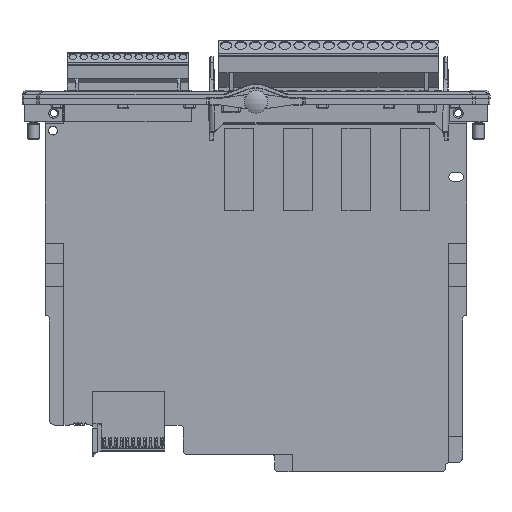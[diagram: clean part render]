
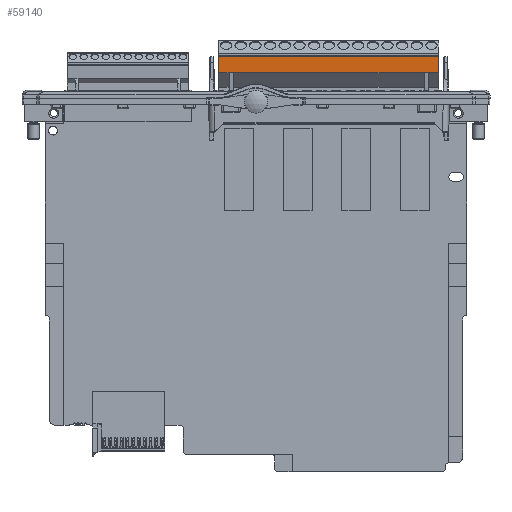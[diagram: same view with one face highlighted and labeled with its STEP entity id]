
A CAD part, top view. The second image highlights one B-rep face of the part: STEP entity #59140.
In plain terms, the highlighted planar face has unit normal (0, -0.06, 0.998).
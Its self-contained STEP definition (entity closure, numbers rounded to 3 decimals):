
#5845=FACE_OUTER_BOUND('',#9278,.T.);
#9278=EDGE_LOOP('',(#43061,#43062,#43063,#43064,#43065,#43066,#43067,#43068));
#14401=LINE('',#90604,#20002);
#14409=LINE('',#90654,#20010);
#14437=LINE('',#90728,#20038);
#14438=LINE('',#90731,#20039);
#14466=LINE('',#90809,#20067);
#14468=LINE('',#90814,#20069);
#14517=LINE('',#91022,#20118);
#14518=LINE('',#91024,#20119);
#20002=VECTOR('',#72903,10.);
#20010=VECTOR('',#72953,10.);
#20038=VECTOR('',#73029,10.);
#20039=VECTOR('',#73032,10.);
#20067=VECTOR('',#73110,10.);
#20069=VECTOR('',#73118,10.);
#20118=VECTOR('',#73375,10.);
#20119=VECTOR('',#73378,10.);
#24802=VERTEX_POINT('',#90601);
#24803=VERTEX_POINT('',#90603);
#24822=VERTEX_POINT('',#90650);
#24824=VERTEX_POINT('',#90653);
#24846=VERTEX_POINT('',#90726);
#24847=VERTEX_POINT('',#90730);
#24872=VERTEX_POINT('',#90807);
#24927=VERTEX_POINT('',#91020);
#31177=EDGE_CURVE('',#24802,#24803,#14401,.T.);
#31202=EDGE_CURVE('',#24822,#24824,#14409,.T.);
#31240=EDGE_CURVE('',#24846,#24822,#14437,.T.);
#31241=EDGE_CURVE('',#24824,#24847,#14438,.T.);
#31281=EDGE_CURVE('',#24872,#24846,#14466,.T.);
#31283=EDGE_CURVE('',#24803,#24872,#14468,.T.);
#31379=EDGE_CURVE('',#24802,#24927,#14517,.T.);
#31380=EDGE_CURVE('',#24847,#24927,#14518,.T.);
#43061=ORIENTED_EDGE('',*,*,#31177,.F.);
#43062=ORIENTED_EDGE('',*,*,#31379,.T.);
#43063=ORIENTED_EDGE('',*,*,#31380,.F.);
#43064=ORIENTED_EDGE('',*,*,#31241,.F.);
#43065=ORIENTED_EDGE('',*,*,#31202,.F.);
#43066=ORIENTED_EDGE('',*,*,#31240,.F.);
#43067=ORIENTED_EDGE('',*,*,#31281,.F.);
#43068=ORIENTED_EDGE('',*,*,#31283,.F.);
#53670=PLANE('',#62992);
#59140=ADVANCED_FACE('',(#5845),#53670,.T.);
#62992=AXIS2_PLACEMENT_3D('',#91023,#73376,#73377);
#72903=DIRECTION('',(0.,-0.998,-0.06));
#72953=DIRECTION('',(-1.,0.,0.));
#73029=DIRECTION('',(-1.,0.,0.));
#73032=DIRECTION('',(-1.,0.,0.));
#73110=DIRECTION('',(-1.,0.,0.));
#73118=DIRECTION('',(-1.,0.,0.));
#73375=DIRECTION('',(-1.,0.,0.));
#73376=DIRECTION('center_axis',(0.,-0.06,
0.998));
#73377=DIRECTION('ref_axis',(0.,0.998,0.06));
#73378=DIRECTION('',(0.,0.998,0.06));
#90601=CARTESIAN_POINT('',(63.3,16.962,12.213));
#90603=CARTESIAN_POINT('',(63.3,10.95,11.85));
#90604=CARTESIAN_POINT('',(63.3,16.962,12.213));
#90650=CARTESIAN_POINT('',(-7.82,10.95,11.85));
#90653=CARTESIAN_POINT('',(-9.32,10.95,11.85));
#90654=CARTESIAN_POINT('',(63.3,10.95,11.85));
#90726=CARTESIAN_POINT('',(58.22,10.95,11.85));
#90728=CARTESIAN_POINT('',(63.3,10.95,11.85));
#90730=CARTESIAN_POINT('',(-12.9,10.95,11.85));
#90731=CARTESIAN_POINT('',(63.3,10.95,11.85));
#90807=CARTESIAN_POINT('',(59.72,10.95,11.85));
#90809=CARTESIAN_POINT('',(63.3,10.95,11.85));
#90814=CARTESIAN_POINT('',(63.3,10.95,11.85));
#91020=CARTESIAN_POINT('',(-12.9,16.962,12.213));
#91022=CARTESIAN_POINT('',(63.3,16.962,12.213));
#91023=CARTESIAN_POINT('Origin',(63.3,10.95,11.85));
#91024=CARTESIAN_POINT('',(-12.9,16.962,12.213));
